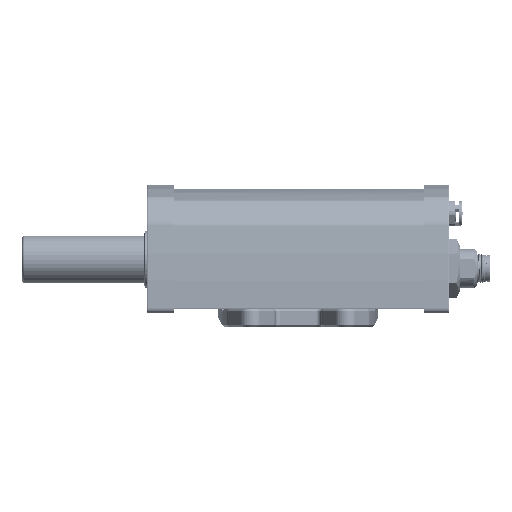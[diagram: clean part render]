
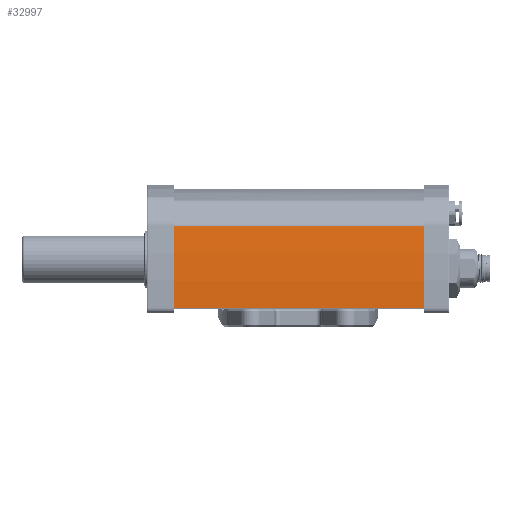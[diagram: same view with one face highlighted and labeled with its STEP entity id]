
A CAD part, front view. The second image highlights one B-rep face of the part: STEP entity #32997.
In plain terms, the highlighted cylindrical face has radius 219.381 mm (diameter 438.762 mm), a partial arc.
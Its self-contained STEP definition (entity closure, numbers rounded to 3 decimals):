
#1304 = DIRECTION ( 'NONE',  ( 0., 0., 1. ) ) ;
#4228 = CARTESIAN_POINT ( 'NONE',  ( -35.746, -2., 105. ) ) ;
#22009 = AXIS2_PLACEMENT_3D ( 'NONE', #24141, #36368, #105389 ) ;
#24141 = CARTESIAN_POINT ( 'NONE',  ( 183.635, -2., 105. ) ) ;
#32997 = ADVANCED_FACE ( 'NONE', ( #47135 ), #58647, .T. ) ;
#36368 = DIRECTION ( 'NONE',  ( 0., 0., -1. ) ) ;
#37201 = ORIENTED_EDGE ( 'NONE', *, *, #79571, .T. ) ;
#43431 = CIRCLE ( 'NONE', #55585, 219.381 ) ;
#46277 = CARTESIAN_POINT ( 'NONE',  ( -33.25, 31., 105. ) ) ;
#47135 = FACE_OUTER_BOUND ( 'NONE', #85810, .T. ) ;
#48217 = DIRECTION ( 'NONE',  ( 1., 0., 0. ) ) ;
#50194 = DIRECTION ( 'NONE',  ( 0., 0., -1. ) ) ;
#55585 = AXIS2_PLACEMENT_3D ( 'NONE', #126455, #144767, #48217 ) ;
#56419 = ORIENTED_EDGE ( 'NONE', *, *, #136527, .F. ) ;
#58647 = CYLINDRICAL_SURFACE ( 'NONE', #22009, 219.381 ) ;
#61705 = LINE ( 'NONE', #73207, #123872 ) ;
#67359 = AXIS2_PLACEMENT_3D ( 'NONE', #129299, #1304, #94782 ) ;
#73207 = CARTESIAN_POINT ( 'NONE',  ( -35.746, -2., 105. ) ) ;
#78969 = VERTEX_POINT ( 'NONE', #110371 ) ;
#79571 = EDGE_CURVE ( 'NONE', #93018, #78969, #83084, .T. ) ;
#83084 = LINE ( 'NONE', #46277, #88515 ) ;
#85810 = EDGE_LOOP ( 'NONE', ( #142316, #56419, #102368, #37201 ) ) ;
#88515 = VECTOR ( 'NONE', #129075, 1000. ) ;
#90481 = CARTESIAN_POINT ( 'NONE',  ( -35.746, -2., 0. ) ) ;
#93018 = VERTEX_POINT ( 'NONE', #149620 ) ;
#94782 = DIRECTION ( 'NONE',  ( 1., 0., 0. ) ) ;
#102368 = ORIENTED_EDGE ( 'NONE', *, *, #135143, .F. ) ;
#105019 = VERTEX_POINT ( 'NONE', #4228 ) ;
#105389 = DIRECTION ( 'NONE',  ( -1., 0., 0. ) ) ;
#107717 = EDGE_CURVE ( 'NONE', #78969, #108409, #133470, .T. ) ;
#108409 = VERTEX_POINT ( 'NONE', #90481 ) ;
#110371 = CARTESIAN_POINT ( 'NONE',  ( -33.25, 31., 0. ) ) ;
#123872 = VECTOR ( 'NONE', #50194, 1000. ) ;
#126455 = CARTESIAN_POINT ( 'NONE',  ( 183.635, -2., 105. ) ) ;
#129075 = DIRECTION ( 'NONE',  ( 0., 0., -1. ) ) ;
#129299 = CARTESIAN_POINT ( 'NONE',  ( 183.635, -2., 0. ) ) ;
#133470 = CIRCLE ( 'NONE', #67359, 219.381 ) ;
#135143 = EDGE_CURVE ( 'NONE', #93018, #105019, #43431, .T. ) ;
#136527 = EDGE_CURVE ( 'NONE', #105019, #108409, #61705, .T. ) ;
#142316 = ORIENTED_EDGE ( 'NONE', *, *, #107717, .T. ) ;
#144767 = DIRECTION ( 'NONE',  ( 0., 0., 1. ) ) ;
#149620 = CARTESIAN_POINT ( 'NONE',  ( -33.25, 31., 105. ) ) ;
